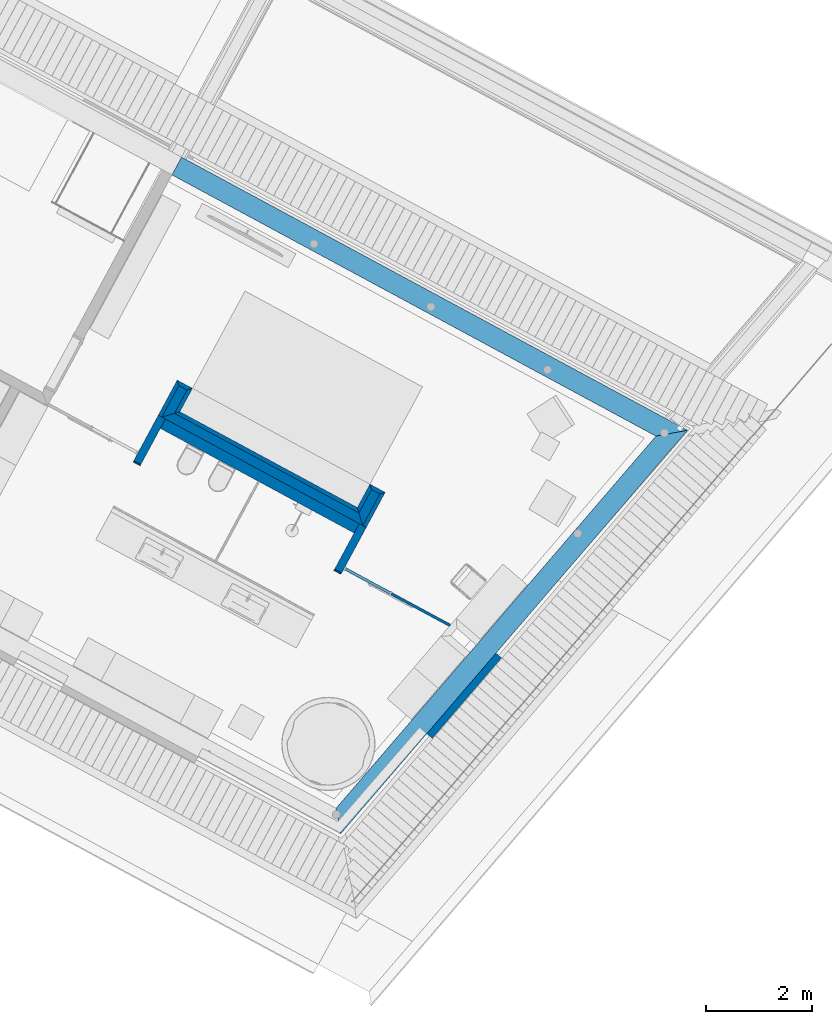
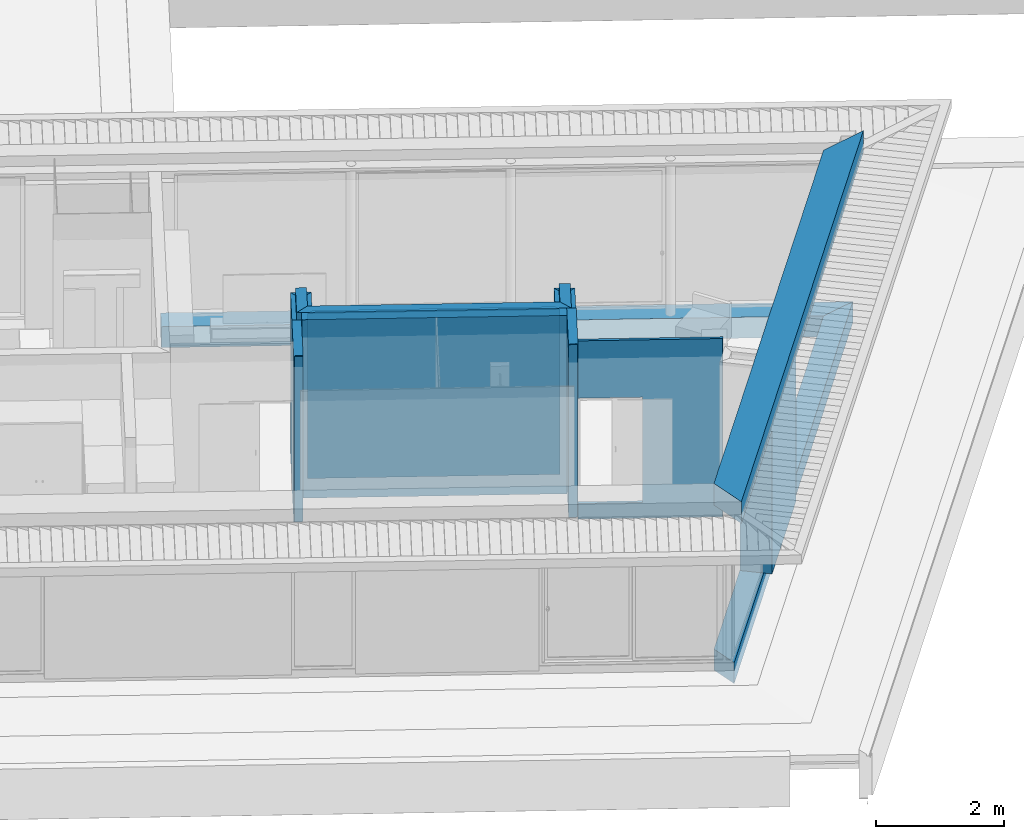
# One storey, part 4 of 41: 19 walls, 5 openings.
"""IFC2X3 building model written with IfcOpenShell, lengths in metres."""

import ifcopenshell
import ifcopenshell.guid

model = None  # the IFC model being written
_history = None  # IfcOwnerHistory: only IFC2X3 demands one
_inside = {}  # id of a spatial element -> (the spatial element, [elements in it])
_under = {}  # id of a project, library or spatial element -> (it, [spatial elements below it])
_declared = {}  # id of a project -> (the project, [libraries it declares])
_typed = {}  # id of a type object -> (the type object, [elements of that type])
_made_of = {}  # id of a material, layer set ... -> (it, [elements and type objects made of it])


def new_model(schema):
    """Start an empty IFC model of exactly this schema.

    Asked for "IFC4X3", IfcOpenShell would pick the latest addendum, in which some entities
    have other attributes; the version numbers below select the first issue.
    IFC2X3 requires an IfcOwnerHistory on every rooted entity: one is made here for all.
    """
    global model, _history
    if schema == "IFC4X3":
        model = ifcopenshell.file(schema_version=(4, 3, 0, 0))
    else:
        model = ifcopenshell.file(schema=schema)
    _inside.clear()
    _under.clear()
    _declared.clear()
    _typed.clear()
    _made_of.clear()
    _history = None
    if model.schema == "IFC2X3":
        org = make("IfcOrganization", Name="unknown")
        user = make(
            "IfcPersonAndOrganization",
            ThePerson=make("IfcPerson", FamilyName="unknown"),
            TheOrganization=org,
        )
        app = make(
            "IfcApplication",
            ApplicationDeveloper=org,
            Version="unknown",
            ApplicationFullName="unknown",
            ApplicationIdentifier="unknown",
        )
        _history = make(
            "IfcOwnerHistory",
            OwningUser=user,
            OwningApplication=app,
            ChangeAction="ADDED",
            CreationDate=0,
        )
    return model


def make(cls, **values):
    """One entity of the class cls with the attributes given. An attribute that is None is left unset."""
    return model.create_entity(
        cls, **{name: value for name, value in values.items() if value is not None}
    )


def entity(cls, *values):
    """Any entity or typed value of the class cls, its attributes in the order of the schema. None: left unset."""
    e = model.create_entity(cls)
    for i, value in enumerate(values):
        if value is not None:
            e[i] = value
    return e


def rooted(cls, **values):
    """An entity with a GlobalId (a new one), such as an element, a storey or a relation."""
    return make(cls, GlobalId=ifcopenshell.guid.new(), OwnerHistory=_history, **values)


def si_unit(unit_type, name, prefix=None):
    """IfcSIUnit, for example si_unit("LENGTHUNIT", "METRE", prefix="MILLI")."""
    return make("IfcSIUnit", UnitType=unit_type, Prefix=prefix, Name=name)


def converted_unit(unit_type, name, factor, base, dimensions=None, offset=None):
    """IfcConversionBasedUnit, such as the inch: factor (a typed value) times the base unit."""
    return make(
        "IfcConversionBasedUnit"
        if offset is None
        else "IfcConversionBasedUnitWithOffset",
        ConversionOffset=offset,
        Dimensions=None
        if dimensions is None
        else entity("IfcDimensionalExponents", *dimensions),
        UnitType=unit_type,
        Name=name,
        ConversionFactor=make(
            "IfcMeasureWithUnit", ValueComponent=factor, UnitComponent=base
        ),
    )


def derived_unit(unit_type, elements):
    """IfcDerivedUnit: a product of units, each with its exponent."""
    return make(
        "IfcDerivedUnit",
        Elements=[
            make("IfcDerivedUnitElement", Unit=unit, Exponent=power)
            for unit, power in elements
        ],
        UnitType=unit_type,
    )


def money_unit(currency):
    """IfcMonetaryUnit."""
    return make("IfcMonetaryUnit", Currency=currency)


def assignment(units):
    """IfcUnitAssignment: the units of a project."""
    return None if units is None else make("IfcUnitAssignment", Units=units)


def point(xyz):
    """IfcCartesianPoint."""
    return None if xyz is None else make("IfcCartesianPoint", Coordinates=xyz)


def direction(xyz):
    """IfcDirection."""
    return None if xyz is None else make("IfcDirection", DirectionRatios=xyz)


def frame(location, z_axis=None, x_axis=None):
    """IfcAxis2Placement3D, a coordinate frame: its origin and axes. An axis left out is left unset."""
    return make(
        "IfcAxis2Placement3D",
        Location=point(location),
        Axis=direction(z_axis),
        RefDirection=direction(x_axis),
    )


def frame_2d(location, x_axis=None):
    """IfcAxis2Placement2D, a coordinate frame in the plane: its origin and x axis."""
    return make(
        "IfcAxis2Placement2D", Location=point(location), RefDirection=direction(x_axis)
    )


def origin_with_axes():
    """The frame at (0, 0, 0) with the z axis (0, 0, 1) and the x axis (1, 0, 0) written out."""
    return frame((0.0, 0.0, 0.0), z_axis=(0.0, 0.0, 1.0), x_axis=(1.0, 0.0, 0.0))


def origin_2d_with_axis():
    """The frame at (0, 0) in the plane with the x axis (1, 0) written out."""
    return frame_2d((0.0, 0.0), x_axis=(1.0, 0.0))


def place(relative_to, where):
    """IfcLocalPlacement: puts the frame where relative to a parent placement (None: the world)."""
    return make(
        "IfcLocalPlacement", PlacementRelTo=relative_to, RelativePlacement=where
    )


def context(
    kind, dimensions, precision=None, world=None, true_north=None, identifier=None
):
    """IfcGeometricRepresentationContext, for example the 3D "Model" context."""
    return make(
        "IfcGeometricRepresentationContext",
        ContextIdentifier=identifier,
        ContextType=kind,
        CoordinateSpaceDimension=dimensions,
        Precision=precision,
        WorldCoordinateSystem=world,
        TrueNorth=true_north,
    )


def subcontext(parent, identifier, kind, view, scale=None):
    """IfcGeometricRepresentationSubContext, for example "Body" below "Model"."""
    return make(
        "IfcGeometricRepresentationSubContext",
        ContextIdentifier=identifier,
        ContextType=kind,
        ParentContext=parent,
        TargetScale=scale,
        TargetView=view,
    )


def project(units=None, contexts=None):
    """IfcProject with its units and contexts."""
    return rooted(
        "IfcProject",
        Name="project",
        RepresentationContexts=contexts,
        UnitsInContext=assignment(units),
    )


def spatial(cls, under=None, at=None, **own):
    """A site, building, storey or space (cls), placed at a placement, below another one or the project."""
    s = rooted(cls, ObjectPlacement=at, **own)
    if under is not None:
        _under.setdefault(under.id(), (under, []))[1].append(s)
    return s


def polyline(points):
    """IfcPolyline through the points."""
    return make("IfcPolyline", Points=[point(p) for p in points])


def profile(cls, at=None, kind="AREA", **sizes):
    """A parametric profile (cls). Its sizes go by their IFC names, for example OverallWidth=200.0."""
    return make(cls, ProfileType=kind, Position=at, **sizes)


def rectangle(**sizes):
    """IfcRectangleProfileDef."""
    return profile("IfcRectangleProfileDef", **sizes)


def outline(outer, holes=None, kind="AREA"):
    """IfcArbitraryClosedProfileDef: a profile drawn as a closed curve; with holes, ...WithVoids."""
    if holes is None:
        return make("IfcArbitraryClosedProfileDef", ProfileType=kind, OuterCurve=outer)
    return make(
        "IfcArbitraryProfileDefWithVoids",
        ProfileType=kind,
        OuterCurve=outer,
        InnerCurves=holes,
    )


def extrude(swept, where, along, depth):
    """IfcExtrudedAreaSolid: the profile swept, set in the frame where, extruded along a direction by depth."""
    return make(
        "IfcExtrudedAreaSolid",
        SweptArea=swept,
        Position=where,
        ExtrudedDirection=direction(along),
        Depth=depth,
    )


def faces_of(points, faces, orient=None, outer=None):
    """IfcFace entities. A face is a list of loops; a loop is a list of indices into points, from 0.

    orient and outer hold one flag for each loop. By default every Orientation is true, the
    first loop of a face is its IfcFaceOuterBound and the others are IfcFaceBound.
    """
    made = []
    for i, loops in enumerate(faces):
        bounds = []
        for j, loop in enumerate(loops):
            is_outer = j == 0 if outer is None else outer[i][j]
            bounds.append(
                make(
                    "IfcFaceOuterBound" if is_outer else "IfcFaceBound",
                    Bound=make("IfcPolyLoop", Polygon=[points[k] for k in loop]),
                    Orientation=True if orient is None else orient[i][j],
                )
            )
        made.append(make("IfcFace", Bounds=bounds))
    return made


def faceted_brep(points, faces, orient=None, outer=None, voids=None):
    """IfcFacetedBrep: a solid bounded by flat faces; with voids (closed shells), ...WithVoids."""
    shared = [point(p) for p in points]
    hull = make("IfcClosedShell", CfsFaces=faces_of(shared, faces, orient, outer))
    if voids is None:
        return make("IfcFacetedBrep", Outer=hull)
    return make(
        "IfcFacetedBrepWithVoids",
        Outer=hull,
        Voids=[
            make(cls, CfsFaces=faces_of(shared, fs, o, b)) for cls, fs, o, b in voids
        ],
    )


def shape(context_of_items, identifier, shape_type, items):
    """IfcShapeRepresentation: the items that make up one representation, for example the "Body"."""
    return make(
        "IfcShapeRepresentation",
        ContextOfItems=context_of_items,
        RepresentationIdentifier=identifier,
        RepresentationType=shape_type,
        Items=items,
    )


def material(Name=None, Category=None):
    """IfcMaterial."""
    return make("IfcMaterial", Name=Name, Category=Category)


def layer(
    of_material, thickness, ventilated=None, Name=None, Category=None, Priority=None
):
    """IfcMaterialLayer: one layer of a wall or slab, of a material (None: an air gap)."""
    return make(
        "IfcMaterialLayer",
        Material=of_material,
        LayerThickness=thickness,
        IsVentilated=ventilated,
        Name=Name,
        Category=Category,
        Priority=Priority,
    )


def layer_set(layers, Name=None):
    """IfcMaterialLayerSet."""
    return make("IfcMaterialLayerSet", MaterialLayers=layers, LayerSetName=Name)


def layer_usage(for_layer_set, set_direction, sense, offset, extent=None):
    """IfcMaterialLayerSetUsage: how a layer set lies in its element."""
    return make(
        "IfcMaterialLayerSetUsage",
        ForLayerSet=for_layer_set,
        LayerSetDirection=set_direction,
        DirectionSense=sense,
        OffsetFromReferenceLine=offset,
        ReferenceExtent=extent,
    )


def made_of(thing, what):
    """Note that an element or type object is made of a material, layer set ...; save() writes the relation."""
    if what is not None:
        _made_of.setdefault(what.id(), (what, []))[1].append(thing)
    return thing


def type_object(cls, material=None, **own):
    """A type object (cls), such as IfcWallType, which elements share."""
    return made_of(rooted(cls, **own), material)


def element(
    cls,
    number,
    at=None,
    inside=None,
    cuts=None,
    type_object=None,
    material=None,
    context=None,
    identifier="Body",
    shape_type=None,
    held_by="IfcProductDefinitionShape",
    body=None,
    shapes=None,
    **own,
):
    """One element of the class cls, such as IfcWall. Its Tag is "e" and its number.

    at: its placement. inside: the storey or other place that contains it. cuts: it is an
    opening in that element (IfcRelVoidsElement). A single representation is given by context,
    identifier, shape_type and body (its items); several are given by shapes. held_by: the class
    of the entity that holds the representations. save() writes the other relations.
    """
    e = rooted(cls, Tag="e%d" % number, ObjectPlacement=at, **own)
    if body is not None:
        shapes = [shape(context, identifier, shape_type, body)]
    if shapes is not None:
        e.Representation = make(held_by, Representations=shapes)
    if inside is not None:
        _inside.setdefault(inside.id(), (inside, []))[1].append(e)
    if cuts is not None:
        rooted(
            "IfcRelVoidsElement", RelatingBuildingElement=cuts, RelatedOpeningElement=e
        )
    if type_object is not None:
        _typed.setdefault(type_object.id(), (type_object, []))[1].append(e)
    return made_of(e, material)


def fill(opening, filler):
    """IfcRelFillsElement: the door or window that sits in an opening."""
    return rooted(
        "IfcRelFillsElement",
        RelatingOpeningElement=opening,
        RelatedBuildingElement=filler,
    )


def aggregate(whole, parts):
    """IfcRelAggregates: a whole, such as a stair, and the parts it consists of."""
    return rooted("IfcRelAggregates", RelatingObject=whole, RelatedObjects=parts)


def save(model, path):
    """Write the relations noted so far, then the file.

    IfcRelAggregates (storeys below a building ...), IfcRelContainedInSpatialStructure (elements
    in a storey), IfcRelDefinesByType, IfcRelAssociatesMaterial and IfcRelDeclares: one each for
    every whole, place, type object, material and project.
    """
    for whole, parts in _under.values():
        aggregate(whole, parts)
    for where, things in _inside.values():
        rooted(
            "IfcRelContainedInSpatialStructure",
            RelatedElements=things,
            RelatingStructure=where,
        )
    for kind, things in _typed.values():
        rooted("IfcRelDefinesByType", RelatedObjects=things, RelatingType=kind)
    for what, things in _made_of.values():
        rooted("IfcRelAssociatesMaterial", RelatedObjects=things, RelatingMaterial=what)
    for by, libraries in _declared.values():
        rooted("IfcRelDeclares", RelatingContext=by, RelatedDefinitions=libraries)
    model.write(path)


model = new_model("IFC2X3")

# Units and contexts
model_context = context("Model", 3, precision=1e-05, world=origin_with_axes(), true_north=direction((0.0, 1.0)))
body_context = subcontext(model_context, "Body", "Model", "MODEL_VIEW")
ifc_project = project(units=[si_unit("LENGTHUNIT", "METRE"), si_unit("AREAUNIT", "SQUARE_METRE"), si_unit("VOLUMEUNIT", "CUBIC_METRE"), converted_unit("PLANEANGLEUNIT", "DEGREE", entity("IfcPlaneAngleMeasure", 0.0174532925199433), si_unit("PLANEANGLEUNIT", "RADIAN"), dimensions=[0, 0, 0, 0, 0, 0, 0]), money_unit("EUR"), converted_unit("TIMEUNIT", "Year", entity("IfcTimeMeasure", 31556926.0), si_unit("TIMEUNIT", "SECOND"), dimensions=[0, 0, 1, 0, 0, 0, 0]), si_unit("MASSUNIT", "GRAM", prefix="KILO"), si_unit("THERMODYNAMICTEMPERATUREUNIT", "DEGREE_CELSIUS"), si_unit("LUMINOUSINTENSITYUNIT", "LUMEN"), si_unit("ENERGYUNIT", "JOULE", prefix="MEGA"), derived_unit("THERMALCONDUCTANCEUNIT", [(si_unit("POWERUNIT", "WATT"), 1), (si_unit("LENGTHUNIT", "METRE"), -1), (si_unit("THERMODYNAMICTEMPERATUREUNIT", "KELVIN"), -1)]), derived_unit("SPECIFICHEATCAPACITYUNIT", [(si_unit("ENERGYUNIT", "JOULE"), 1), (si_unit("MASSUNIT", "GRAM", prefix="KILO"), -1), (si_unit("THERMODYNAMICTEMPERATUREUNIT", "KELVIN"), -1)]), derived_unit("MASSDENSITYUNIT", [(si_unit("MASSUNIT", "GRAM", prefix="KILO"), 1), (si_unit("VOLUMEUNIT", "CUBIC_METRE"), -1)])], contexts=[model_context])

# Site, building, storey
site_placement = place(None, frame((-3.949935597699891, 1.740105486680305, 0.0), z_axis=(0.0, 0.0, 1.0), x_axis=(0.8799804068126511, -0.475009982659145, 0.0)))
site = spatial("IfcSite", under=ifc_project, at=site_placement, Name="Gelände", CompositionType="ELEMENT")
building_placement = place(site_placement, origin_with_axes())
building = spatial("IfcBuilding", under=site, at=building_placement, Name="Gebäude", CompositionType="ELEMENT")
storey_placement = place(building_placement, frame((0.0, 0.0, 4.55), z_axis=(0.0, 0.0, 1.0), x_axis=(1.0, 0.0, 0.0)))
storey = spatial("IfcBuildingStorey", under=building, at=storey_placement, Name="Staffelgeschoss", CompositionType="ELEMENT", Elevation=4.55)

# Walls
ifc_material_1 = material(Name="_SIWH - MW Kalksandstein")
ifc_layer_1 = layer(ifc_material_1, 0.175, ventilated="UNKNOWN")
ifc_layer_set_1 = layer_set([ifc_layer_1], Name="_SIWH - WI | KS 17,5 | 17,5cm")
ifc_layer_usage_1 = layer_usage(ifc_layer_set_1, "AXIS2", "POSITIVE", 0.0)
wall_type_1 = type_object("IfcWallType", Name="_SIWH - WI | KS 17,5 | 17,5cm 175", PredefinedType="NOTDEFINED")
wall_1_placement = place(storey_placement, frame((19.36753332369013, 7.227148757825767, -0.1900000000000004), z_axis=(0.0, 0.0, 1.0), x_axis=(0.0, -1.0, 0.0)))
element("IfcWallStandardCase", 1, at=wall_1_placement, inside=storey, type_object=wall_type_1, material=ifc_layer_usage_1, Name="I-Wand015", ObjectType="NOTDEFINED", context=body_context, shape_type="SweptSolid", body=[
    extrude(outline(polyline([(0.0, 0.0), (0.6749999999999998, 0.0), (0.5, 0.1750000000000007), (0.0, 0.1750000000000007), (0.0, 0.0)])), origin_with_axes(), (0.0, 0.0, 1.0), 3.295),
])
ifc_layer_usage_2 = layer_usage(ifc_layer_set_1, "AXIS2", "NEGATIVE", 0.0)
wall_2_placement = place(storey_placement, frame((23.66753332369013, 7.227148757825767, -0.1900000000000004), z_axis=(0.0, 0.0, 1.0), x_axis=(0.0, -1.0, 0.0)))
element("IfcWallStandardCase", 2, at=wall_2_placement, inside=storey, type_object=wall_type_1, material=ifc_layer_usage_2, Name="I-Wand016", ObjectType="NOTDEFINED", context=body_context, shape_type="SweptSolid", body=[
    extrude(outline(polyline([(0.0, -0.1750000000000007), (0.5, -0.1750000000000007), (0.6749999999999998, 0.0), (0.0, 0.0), (0.0, -0.1750000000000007)])), origin_with_axes(), (0.0, 0.0, 1.0), 3.295),
])
ifc_layer_usage_3 = layer_usage(ifc_layer_set_1, "AXIS2", "NEGATIVE", 0.0)
wall_3_placement = place(storey_placement, frame((23.66753332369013, 6.552148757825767, -0.1900000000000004), z_axis=(0.0, 0.0, 1.0), x_axis=(-1.0, 0.0, 0.0)))
element("IfcWallStandardCase", 3, at=wall_3_placement, inside=storey, type_object=wall_type_1, material=ifc_layer_usage_3, Name="I-Wand022", ObjectType="NOTDEFINED", context=body_context, shape_type="SweptSolid", body=[
    extrude(outline(polyline([(0.1750000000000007, -0.1749999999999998), (4.125, -0.1749999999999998), (4.300000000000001, 0.0), (0.0, 0.0), (0.1750000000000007, -0.1749999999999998)])), origin_with_axes(), (0.0, 0.0, 1.0), 3.295),
])

# Wall, openings
ifc_material_2 = material(Name="_SIWH - MW Vormauerziegel")
ifc_layer_2 = layer(ifc_material_2, 0.115, ventilated="UNKNOWN")
ifc_material_3 = material(Name="_SIWH - Luftschicht vertikal")
ifc_layer_3 = layer(ifc_material_3, 0.02, ventilated="UNKNOWN")
ifc_material_4 = material(Name="_SIWH - Dämmung, weich Mineralwolle")
ifc_layer_4 = layer(ifc_material_4, 0.18, ventilated="UNKNOWN")
ifc_material_5 = material(Name="_SIWH - Beton, Stahlbeton")
ifc_layer_5 = layer(ifc_material_5, 0.2, ventilated="UNKNOWN")
ifc_layer_set_2 = layer_set([ifc_layer_2, ifc_layer_3, ifc_layer_4, ifc_layer_5], Name="_SIWH - WA | Stb. 20+WD 18+LS 2+Verblender 11,5 | 51,5cm")
ifc_layer_usage_4 = layer_usage(ifc_layer_set_2, "AXIS2", "POSITIVE", -0.315)
wall_type_2 = type_object("IfcWallType", Name="_SIWH - WA | Stb. 20+WD 18+LS 2+Verblender 11,5 | 51,5cm 515", PredefinedType="NOTDEFINED")
wall_4_placement = place(storey_placement, frame((25.91612514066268, 1.424987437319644, -2.47253595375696e-09), z_axis=(0.0, 0.0, 1.0), x_axis=(0.2133784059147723, 0.9769696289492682, 0.0)))
wall_4 = element("IfcWallStandardCase", 4, at=wall_4_placement, inside=storey, type_object=wall_type_2, material=ifc_layer_usage_4, Name="A-Wand044", ObjectType="NOTDEFINED", context=body_context, shape_type="SweptSolid", body=[
    extrude(outline(polyline([(-0.2536269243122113, -0.3150000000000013), (10.0463996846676, -0.3150000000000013), (9.406779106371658, 0.1999999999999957), (0.1610329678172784, 0.1999999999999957), (-0.2536269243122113, -0.3150000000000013)])), origin_with_axes(), (0.0, 0.0, 1.0), 3.164000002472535),
])
opening_1_placement = place(wall_4_placement, frame((1.113003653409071, 0.0, 2.47253595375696e-09), z_axis=(0.0, 0.0, 1.0), x_axis=(1.0, 0.0, 0.0)))
element("IfcOpeningElement", 5, at=opening_1_placement, cuts=wall_4, Name="Eckfenster-007", context=body_context, shape_type="Brep", body=[
    faceted_brep([(1.229976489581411, 0.125, -2.47253595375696e-09), (1.229976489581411, 0.125, 2.749999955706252), (1.229976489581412, -2.328758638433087, 2.749999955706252), (1.229976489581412, -2.328758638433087, -2.47253595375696e-09), (1.229976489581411, 2.213758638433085, -2.47253595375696e-09), (1.229976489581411, 2.213758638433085, 2.749999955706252), (-1.012358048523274, 0.125, 2.749999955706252), (-1.366630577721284, -0.3150000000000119, 2.749999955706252), (-1.366630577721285, -2.328758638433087, 2.749999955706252), (-1.366630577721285, -2.328758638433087, -2.47253595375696e-09), (-1.012358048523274, 0.125, -2.47253595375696e-09), (-1.366630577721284, -0.3150000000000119, -2.47253595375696e-09), (0.6694369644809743, 2.213758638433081, -2.47253595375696e-09), (0.6694369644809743, 2.213758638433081, 2.749999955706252)], [[[0, 1, 2, 3]], [[1, 0, 4, 5]], [[1, 6, 7, 8, 2]], [[8, 9, 3, 2]], [[10, 0, 3, 9, 11]], [[0, 10, 12, 4]], [[5, 4, 12, 13]], [[6, 1, 5, 13]], [[7, 6, 13, 12, 10, 11]], [[11, 9, 8, 7]]]),
])
opening_2_placement = place(wall_4_placement, frame((6.939689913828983, 0.0, 2.47253595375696e-09), z_axis=(0.0, 0.0, 1.0), x_axis=(1.0, 0.0, 0.0)))
element("IfcOpeningElement", 6, at=opening_2_placement, cuts=wall_4, Name="Eckfenster-007", context=body_context, shape_type="Brep", body=[
    faceted_brep([(3.106709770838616, -0.3150000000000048, 2.74999995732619), (3.10670977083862, -2.32875863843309, 2.74999995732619), (3.10670977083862, -2.32875863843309, -2.47253595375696e-09), (3.106709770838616, -0.3150000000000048, -2.47253595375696e-09), (2.560237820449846, 0.1249999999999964, 2.74999995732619), (-2.596709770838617, 0.125, 2.74999995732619), (-2.596709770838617, -2.328758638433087, 2.74999995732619), (-2.596709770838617, -2.328758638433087, -2.47253595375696e-09), (-2.596709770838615, 0.1249999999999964, -2.47253595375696e-09), (2.560237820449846, 0.1249999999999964, -2.47253595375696e-09), (-0.0339621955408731, 2.213758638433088, -2.47253595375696e-09), (-0.0339621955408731, 2.213758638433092, 2.74999995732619), (-2.596709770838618, 2.213758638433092, 2.74999995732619), (-2.596709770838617, 2.213758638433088, -2.47253595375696e-09)], [[[0, 1, 2, 3]], [[4, 5, 6, 1, 0]], [[6, 7, 2, 1]], [[8, 9, 3, 2, 7]], [[0, 3, 9, 10, 11, 4]], [[5, 4, 11, 12]], [[5, 8, 7, 6]], [[9, 8, 13, 10]], [[10, 13, 12, 11]], [[8, 5, 12, 13]]]),
])

# Walls
ifc_material_6 = material(Name="_SIWH - Gipskarton")
ifc_layer_6 = layer(ifc_material_6, 0.0125, ventilated="UNKNOWN")
ifc_layer_7 = layer(ifc_material_6, 0.0125, ventilated="UNKNOWN")
ifc_material_7 = material(Name="_SIWH - Installationswand, raumhoch")
ifc_layer_8 = layer(ifc_material_7, 0.05, ventilated="UNKNOWN")
ifc_layer_set_3 = layer_set([ifc_layer_6, ifc_layer_7, ifc_layer_8], Name="_SIWH - WI | Vorsatz-GK 2-lagig | 7,5cm")
ifc_layer_usage_5 = layer_usage(ifc_layer_set_3, "AXIS2", "NEGATIVE", 0.0)
wall_type_3 = type_object("IfcWallType", Name="_SIWH - WI | Vorsatz-GK 2-lagig | 7,5cm  75", PredefinedType="PLUMBINGWALL")
wall_5_placement = place(storey_placement, frame((19.29253332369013, 6.552148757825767, -0.1899999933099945), z_axis=(0.0, 0.0, 1.0), x_axis=(0.0, 1.0, 0.0)))
element("IfcWallStandardCase", 7, at=wall_5_placement, inside=storey, type_object=wall_type_3, material=ifc_layer_usage_5, Name="L-Wand021", ObjectType="PLUMBINGWALL", context=body_context, shape_type="SweptSolid", body=[
    extrude(outline(polyline([(0.0, -0.07499999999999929), (0.6749999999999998, -0.07499999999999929), (0.75, 0.0), (0.0, 0.0), (0.0, -0.07499999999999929)])), origin_with_axes(), (0.0, 0.0, 1.0), 3.153999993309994),
])
ifc_layer_usage_6 = layer_usage(ifc_layer_set_3, "AXIS2", "NEGATIVE", 0.0)
wall_6_placement = place(storey_placement, frame((19.61753332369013, 7.302148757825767, -0.1899999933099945), z_axis=(0.0, 0.0, 1.0), x_axis=(0.0, -1.0, 0.0)))
element("IfcWallStandardCase", 8, at=wall_6_placement, inside=storey, type_object=wall_type_3, material=ifc_layer_usage_6, Name="L-Wand029", ObjectType="PLUMBINGWALL", context=body_context, shape_type="SweptSolid", body=[
    extrude(outline(polyline([(0.07500000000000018, -0.07499999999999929), (0.5750000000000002, -0.07499999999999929), (0.5, 0.0), (0.0, 0.0), (0.07500000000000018, -0.07499999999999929)])), origin_with_axes(), (0.0, 0.0, 1.0), 3.153999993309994),
])
ifc_layer_usage_7 = layer_usage(ifc_layer_set_3, "AXIS2", "NEGATIVE", 0.0)
wall_7_placement = place(storey_placement, frame((19.61753332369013, 6.802148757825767, -0.1899999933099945), z_axis=(0.0, 0.0, 1.0), x_axis=(1.0, 0.0, 0.0)))
element("IfcWallStandardCase", 9, at=wall_7_placement, inside=storey, type_object=wall_type_3, material=ifc_layer_usage_7, Name="L-Wand031", ObjectType="PLUMBINGWALL", context=body_context, shape_type="SweptSolid", body=[
    extrude(outline(polyline([(-0.07499999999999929, -0.07500000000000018), (3.875, -0.07500000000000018), (3.800000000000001, 0.0), (0.0, 0.0), (-0.07499999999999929, -0.07500000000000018)])), origin_with_axes(), (0.0, 0.0, 1.0), 3.153999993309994),
])
ifc_layer_usage_8 = layer_usage(ifc_layer_set_3, "AXIS2", "NEGATIVE", 0.0)
wall_8_placement = place(storey_placement, frame((19.29253332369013, 7.302148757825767, -0.1899999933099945), z_axis=(0.0, 0.0, 1.0), x_axis=(1.0, 0.0, 0.0)))
element("IfcWallStandardCase", 10, at=wall_8_placement, inside=storey, type_object=wall_type_3, material=ifc_layer_usage_8, Name="L-Wand030", ObjectType="PLUMBINGWALL", context=body_context, shape_type="SweptSolid", body=[
    extrude(outline(polyline([(0.07499999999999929, -0.07500000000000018), (0.25, -0.07500000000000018), (0.3249999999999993, 0.0), (0.0, 0.0), (0.07499999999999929, -0.07500000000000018)])), origin_with_axes(), (0.0, 0.0, 1.0), 3.153999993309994),
])
ifc_layer_usage_9 = layer_usage(ifc_layer_set_3, "AXIS2", "NEGATIVE", 0.0)
wall_9_placement = place(storey_placement, frame((23.41753332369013, 6.802148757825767, -0.1899999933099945), z_axis=(0.0, 0.0, 1.0), x_axis=(0.0, 1.0, 0.0)))
element("IfcWallStandardCase", 11, at=wall_9_placement, inside=storey, type_object=wall_type_3, material=ifc_layer_usage_9, Name="L-Wand032", ObjectType="PLUMBINGWALL", context=body_context, shape_type="SweptSolid", body=[
    extrude(outline(polyline([(-0.07500000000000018, -0.07499999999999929), (0.4249999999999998, -0.07499999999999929), (0.5, 0.0), (0.0, 0.0), (-0.07500000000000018, -0.07499999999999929)])), origin_with_axes(), (0.0, 0.0, 1.0), 3.153999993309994),
])
ifc_layer_usage_10 = layer_usage(ifc_layer_set_3, "AXIS2", "NEGATIVE", 0.0)
wall_10_placement = place(storey_placement, frame((23.41753332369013, 7.302148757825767, -0.1899999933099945), z_axis=(0.0, 0.0, 1.0), x_axis=(1.0, 0.0, 0.0)))
element("IfcWallStandardCase", 12, at=wall_10_placement, inside=storey, type_object=wall_type_3, material=ifc_layer_usage_10, Name="L-Wand038", ObjectType="PLUMBINGWALL", context=body_context, shape_type="SweptSolid", body=[
    extrude(outline(polyline([(0.07499999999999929, -0.07500000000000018), (0.25, -0.07500000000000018), (0.3249999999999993, 0.0), (0.0, 0.0), (0.07499999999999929, -0.07500000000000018)])), origin_with_axes(), (0.0, 0.0, 1.0), 3.153999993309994),
])
ifc_layer_usage_11 = layer_usage(ifc_layer_set_3, "AXIS2", "NEGATIVE", 0.0)
wall_11_placement = place(storey_placement, frame((23.74253332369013, 7.302148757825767, -0.1899999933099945), z_axis=(0.0, 0.0, 1.0), x_axis=(0.0, -1.0, 0.0)))
element("IfcWallStandardCase", 13, at=wall_11_placement, inside=storey, type_object=wall_type_3, material=ifc_layer_usage_11, Name="L-Wand042", ObjectType="PLUMBINGWALL", context=body_context, shape_type="SweptSolid", body=[
    extrude(outline(polyline([(0.07500000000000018, -0.07499999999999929), (0.75, -0.07499999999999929), (0.75, 0.0), (0.0, 0.0), (0.07500000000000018, -0.07499999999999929)])), origin_with_axes(), (0.0, 0.0, 1.0), 3.153999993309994),
])

# Walls, opening
ifc_layer_9 = layer(ifc_material_6, 0.0125, ventilated="UNKNOWN")
ifc_layer_10 = layer(ifc_material_6, 0.0125, ventilated="UNKNOWN")
ifc_layer_11 = layer(ifc_material_7, 0.1, ventilated="UNKNOWN")
ifc_layer_12 = layer(ifc_material_6, 0.0125, ventilated="UNKNOWN")
ifc_layer_13 = layer(ifc_material_6, 0.0125, ventilated="UNKNOWN")
ifc_layer_set_4 = layer_set([ifc_layer_9, ifc_layer_10, ifc_layer_11, ifc_layer_12, ifc_layer_13], Name="_SIWH - WI | Vorsatz-GK 2-lagig | 15cm")
ifc_layer_usage_12 = layer_usage(ifc_layer_set_4, "AXIS2", "NEGATIVE", 0.0)
wall_type_4 = type_object("IfcWallType", Name="_SIWH - WI | Vorsatz-GK 2-lagig | 15cm 150", PredefinedType="PLUMBINGWALL")
wall_12_placement = place(storey_placement, frame((23.74253332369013, 6.552148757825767, -0.1899999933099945), z_axis=(0.0, 0.0, 1.0), x_axis=(0.0, -1.0, 0.0)))
wall_12 = element("IfcWallStandardCase", 14, at=wall_12_placement, inside=storey, type_object=wall_type_4, material=ifc_layer_usage_12, Name="L-Wand049", ObjectType="PLUMBINGWALL", context=body_context, shape_type="SweptSolid", body=[
    extrude(outline(polyline([(0.0, -0.1499999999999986), (1.0, -0.1499999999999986), (1.0, 0.0), (0.0, 0.0), (0.0, -0.1499999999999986)])), origin_with_axes(), (0.0, 0.0, 1.0), 3.294999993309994),
])
opening_3_placement = place(wall_12_placement, frame((1.000000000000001, 0.0, 0.0), z_axis=(0.0, 0.0, 1.0), x_axis=(1.0, 0.0, 0.0)))
opening_3 = element("IfcOpeningElement", 15, at=opening_3_placement, cuts=wall_12, Name="WandAbschl-001", ObjectType="Recess", context=body_context, shape_type="SweptSolid", body=[
    extrude(rectangle(XDim=0.1374999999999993, YDim=0.01250000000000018, at=origin_2d_with_axis()), frame((-0.006250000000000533, -0.08124999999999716, 0.0), z_axis=(0.0, 0.0, 1.0), x_axis=(0.0, -1.0, 0.0)), (0.0, 0.0, 1.0), 3.294999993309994),
    extrude(rectangle(XDim=0.1125000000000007, YDim=0.01250000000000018, at=origin_2d_with_axis()), frame((-0.01875000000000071, -0.08124999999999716, 0.0), z_axis=(0.0, 0.0, 1.0), x_axis=(0.0, -1.0, 0.0)), (0.0, 0.0, 1.0), 3.294999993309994),
])
wall_type_5 = type_object("IfcWallType", Name="Wandabschluss 02 26", PredefinedType="PLUMBINGWALL")
wall_13_placement = place(opening_3_placement, frame((0.01250000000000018, 0.0, 0.0), z_axis=(0.0, 0.0, 1.0), x_axis=(-1.0, 0.0, 0.0)))
wall_13 = element("IfcWall", 16, at=wall_13_placement, inside=storey, type_object=wall_type_5, material=ifc_material_6, Name="WandAbschl-001", ObjectType="PLUMBINGWALL", context=body_context, shape_type="Brep", body=[
    faceted_brep([(0.01250000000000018, 0.01249999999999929, 0.0), (0.02500000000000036, 0.01249999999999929, 0.0), (0.02500000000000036, 0.01249999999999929, 3.294999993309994), (0.01250000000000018, 0.01249999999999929, 3.294999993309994), (0.01250000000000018, 0.1499999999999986, 0.0), (0.02500000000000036, 0.1499999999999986, 0.0), (0.02500000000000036, 0.1499999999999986, 3.294999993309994), (0.01250000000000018, 0.1499999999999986, 3.294999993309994)], [[[0, 1, 2, 3]], [[4, 5, 1, 0]], [[5, 6, 2, 1]], [[6, 7, 3, 2]], [[7, 4, 0, 3]], [[4, 7, 6, 5]]]),
    faceted_brep([(0.02500000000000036, 0.02499999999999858, 0.0), (0.03750000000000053, 0.02499999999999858, 0.0), (0.03750000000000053, 0.02499999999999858, 3.294999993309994), (0.02500000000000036, 0.02499999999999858, 3.294999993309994), (0.02500000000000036, 0.1374999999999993, 0.0), (0.03750000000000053, 0.1374999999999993, 0.0), (0.03750000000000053, 0.1374999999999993, 3.294999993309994), (0.02500000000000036, 0.1374999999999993, 3.294999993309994)], [[[0, 1, 2, 3]], [[4, 5, 1, 0]], [[5, 6, 2, 1]], [[6, 7, 3, 2]], [[7, 4, 0, 3]], [[4, 7, 6, 5]]]),
])
fill(opening_3, wall_13)

ifc_layer_usage_13 = layer_usage(ifc_layer_set_4, "AXIS2", "POSITIVE", 0.0)
wall_14_placement = place(storey_placement, frame((19.29253332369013, 6.552148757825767, -0.1899999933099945), z_axis=(0.0, 0.0, 1.0), x_axis=(0.0, -1.0, 0.0)))
wall_14 = element("IfcWallStandardCase", 17, at=wall_14_placement, inside=storey, type_object=wall_type_4, material=ifc_layer_usage_13, Name="L-Wand048", ObjectType="PLUMBINGWALL", context=body_context, shape_type="SweptSolid", body=[
    extrude(outline(polyline([(0.0, 0.0), (1.0, 0.0), (1.0, 0.1499999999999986), (0.0, 0.1499999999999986), (0.0, 0.0)])), origin_with_axes(), (0.0, 0.0, 1.0), 3.153999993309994),
])
opening_4_placement = place(wall_14_placement, frame((1.000000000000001, 0.0, 0.0), z_axis=(0.0, 0.0, 1.0), x_axis=(1.0, 0.0, 0.0)))
opening_4 = element("IfcOpeningElement", 18, at=opening_4_placement, cuts=wall_14, Name="WandAbschl-001", ObjectType="Recess", context=body_context, shape_type="SweptSolid", body=[
    extrude(rectangle(XDim=0.1374999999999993, YDim=0.01250000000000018, at=origin_2d_with_axis()), frame((-0.006249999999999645, 0.08125000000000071, 0.0), z_axis=(0.0, 0.0, 1.0), x_axis=(0.0, -1.0, 0.0)), (0.0, 0.0, 1.0), 3.153999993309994),
    extrude(rectangle(XDim=0.1125000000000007, YDim=0.01250000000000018, at=origin_2d_with_axis()), frame((-0.01874999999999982, 0.08125000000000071, 0.0), z_axis=(0.0, 0.0, 1.0), x_axis=(0.0, -1.0, 0.0)), (0.0, 0.0, 1.0), 3.153999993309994),
])
wall_15_placement = place(opening_4_placement, frame((0.01250000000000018, 0.0, 0.0), z_axis=(0.0, 0.0, 1.0), x_axis=(-1.0, 0.0, 0.0)))
wall_15 = element("IfcWall", 19, at=wall_15_placement, inside=storey, type_object=wall_type_5, material=ifc_material_6, Name="WandAbschl-001", ObjectType="PLUMBINGWALL", context=body_context, shape_type="Brep", body=[
    faceted_brep([(0.01250000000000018, -0.1499999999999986, 0.0), (0.02500000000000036, -0.1499999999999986, 0.0), (0.02500000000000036, -0.1499999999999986, 3.153999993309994), (0.01250000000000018, -0.1499999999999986, 3.153999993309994), (0.01250000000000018, -0.01249999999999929, 0.0), (0.02500000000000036, -0.01249999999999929, 0.0), (0.02500000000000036, -0.01249999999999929, 3.153999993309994), (0.01250000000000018, -0.01249999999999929, 3.153999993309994)], [[[0, 1, 2, 3]], [[4, 5, 1, 0]], [[5, 6, 2, 1]], [[6, 7, 3, 2]], [[7, 4, 0, 3]], [[4, 7, 6, 5]]]),
    faceted_brep([(0.02500000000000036, -0.1374999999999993, 0.0), (0.03750000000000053, -0.1374999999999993, 0.0), (0.03750000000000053, -0.1374999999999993, 3.153999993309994), (0.02500000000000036, -0.1374999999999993, 3.153999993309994), (0.02500000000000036, -0.02499999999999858, 0.0), (0.03750000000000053, -0.02499999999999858, 0.0), (0.03750000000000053, -0.02499999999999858, 3.153999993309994), (0.02500000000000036, -0.02499999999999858, 3.153999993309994)], [[[0, 1, 2, 3]], [[4, 5, 1, 0]], [[5, 6, 2, 1]], [[6, 7, 3, 2]], [[7, 4, 0, 3]], [[4, 7, 6, 5]]]),
])
fill(opening_4, wall_15)

# Walls
ifc_layer_14 = layer(ifc_material_6, 0.0125, ventilated="UNKNOWN")
ifc_layer_15 = layer(ifc_material_6, 0.0125, ventilated="UNKNOWN")
ifc_layer_16 = layer(ifc_material_7, 0.175, ventilated="UNKNOWN")
ifc_layer_set_5 = layer_set([ifc_layer_14, ifc_layer_15, ifc_layer_16], Name="_SIWH - WI | Vorsatz-GK 2-lagig | 20cm")
ifc_layer_usage_14 = layer_usage(ifc_layer_set_5, "AXIS2", "NEGATIVE", 0.2)
wall_type_6 = type_object("IfcWallType", Name="_SIWH - WI | Vorsatz-GK 2-lagig | 20cm 200", PredefinedType="PLUMBINGWALL")
wall_16_placement = place(storey_placement, frame((23.59253332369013, 6.552148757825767, -0.2999999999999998), z_axis=(0.0, 0.0, 1.0), x_axis=(-1.0, 0.0, 0.0)))
element("IfcWallStandardCase", 20, at=wall_16_placement, inside=storey, type_object=wall_type_6, material=ifc_layer_usage_14, Name="L-Wand022", ObjectType="PLUMBINGWALL", context=body_context, shape_type="SweptSolid", body=[
    extrude(outline(polyline([(0.0, 0.0), (4.150000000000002, 0.0), (4.150000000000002, 0.2000000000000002), (0.0, 0.2000000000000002), (0.0, 0.0)])), origin_with_axes(), (0.0, 0.0, 1.0), 3.404999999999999),
])
ifc_layer_17 = layer(ifc_material_4, 0.18, ventilated="UNKNOWN")
ifc_layer_18 = layer(ifc_material_5, 0.2, ventilated="UNKNOWN")
ifc_layer_set_6 = layer_set([ifc_layer_17, ifc_layer_18], Name="_SIWH - WA | Stb. 20+WD 18 | 38cm")
ifc_layer_usage_15 = layer_usage(ifc_layer_set_6, "AXIS2", "POSITIVE", -0.18)
wall_type_7 = type_object("IfcWallType", Name="_SIWH - WA | Stb. 20+WD 18 | 38cm 380", PredefinedType="NOTDEFINED")
wall_17_placement = place(storey_placement, frame((27.97633107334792, 10.85780061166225, -0.4000000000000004), z_axis=(0.0, 0.0, 1.0), x_axis=(-1.0, 0.0, 0.0)))
element("IfcWallStandardCase", 21, at=wall_17_placement, inside=storey, type_object=wall_type_7, material=ifc_layer_usage_15, Name="A-Wand050", ObjectType="NOTDEFINED", context=body_context, shape_type="SweptSolid", body=[
    extrude(outline(polyline([(-0.2235567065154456, -0.1799999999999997), (10.60884069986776, -0.1799999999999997), (10.60884069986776, 0.2000000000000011), (0.2483963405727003, 0.2000000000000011), (-0.2235567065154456, -0.1799999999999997)])), origin_with_axes(), (0.0, 0.0, 1.0), 0.4000000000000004),
])
ifc_layer_usage_16 = layer_usage(ifc_layer_set_6, "AXIS2", "POSITIVE", -0.18)
wall_18_placement = place(storey_placement, frame((25.91612514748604, 1.424987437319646, -0.3999999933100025), z_axis=(0.0, 0.0, 1.0), x_axis=(0.2133784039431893, 0.9769696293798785, 0.0)))
element("IfcWallStandardCase", 22, at=wall_18_placement, inside=storey, type_object=wall_type_7, material=ifc_layer_usage_16, Name="A-Wand049", ObjectType="NOTDEFINED", context=body_context, shape_type="SweptSolid", body=[
    extrude(outline(polyline([(-0.1449296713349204, -0.1800000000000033), (9.87873214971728, -0.1800000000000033), (9.40677910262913, 0.1999999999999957), (0.1610329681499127, 0.1999999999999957), (-0.1449296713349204, -0.1800000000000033)])), origin_with_axes(), (0.0, 0.0, 1.0), 0.3999999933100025),
])

# Wall, opening
ifc_material_8 = material(Name="ALLGEMEIN - BAUTEIL")
ifc_layer_19 = layer(ifc_material_8, 0.05, ventilated="UNKNOWN")
ifc_layer_set_7 = layer_set([ifc_layer_19], Name="ALLGEMEIN - BAUTEIL 0.05")
ifc_layer_usage_17 = layer_usage(ifc_layer_set_7, "AXIS2", "NEGATIVE", 0.0)
wall_type_8 = type_object("IfcWallType", Name="ALLGEMEIN - BAUTEIL 50", PredefinedType="NOTDEFINED")
wall_19_placement = place(storey_placement, frame((26.00538265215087, 5.653154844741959, -0.2999999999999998), z_axis=(0.0, 0.0, 1.0), x_axis=(-0.9999999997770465, -2.111651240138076e-05, 0.0)))
wall_19 = element("IfcWallStandardCase", 23, at=wall_19_placement, inside=storey, type_object=wall_type_8, material=ifc_layer_usage_17, Name="I-Wand035", ObjectType="NOTDEFINED", context=body_context, shape_type="SweptSolid", body=[
    extrude(outline(polyline([(-0.01092152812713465, -0.04999999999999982), (2.262848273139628, -0.04999999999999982), (2.262849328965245, 0.0), (0.0, 0.0), (-0.01092152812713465, -0.04999999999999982)])), origin_with_axes(), (0.0, 0.0, 1.0), 3.404999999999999),
])
opening_5_placement = place(wall_19_placement, frame((1.757847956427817, 0.0, 0.2999999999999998), z_axis=(0.0, 0.0, 1.0), x_axis=(1.0, 0.0, 0.0)))
element("IfcOpeningElement", 24, at=opening_5_placement, cuts=wall_19, Name="I-Wand057", context=body_context, shape_type="Brep", body=[
    faceted_brep([(-0.504999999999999, 0.001047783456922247, 1.98), (-0.504999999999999, 0.0, 1.98), (-0.504999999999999, 0.0, 0.0), (-0.5049999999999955, -0.05104778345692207, 0.0), (-0.5049999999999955, -0.05104778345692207, 2.01), (-0.504999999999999, 0.001047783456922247, 2.01), (-0.5049999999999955, 0.03000000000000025, 1.98), (-1.514999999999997, 0.03000000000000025, 1.98), (-1.514999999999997, 0.0, 1.98), (-1.514999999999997, 0.0, 0.0), (-0.504999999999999, 0.001047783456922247, 0.0), (0.5050000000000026, 0.001047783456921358, 0.0), (0.5050000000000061, -0.05104778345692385, 0.0), (0.5050000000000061, -0.05104778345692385, 2.01), (0.5050000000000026, 0.001047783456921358, 2.01), (-0.5049999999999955, 0.03000000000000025, 0.0), (-1.514999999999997, 0.03000000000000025, 0.0)], [[[0, 1, 2, 3, 4, 5]], [[1, 0, 6, 7, 8]], [[2, 1, 8, 9]], [[2, 10, 11, 12, 3]], [[3, 12, 13, 4]], [[4, 13, 14, 5]], [[10, 0, 5, 14, 11]], [[0, 10, 15, 6]], [[7, 6, 15, 16]], [[8, 7, 16, 9]], [[10, 2, 9, 16, 15]], [[13, 12, 11, 14]]]),
])

save(model, "model.ifc")
